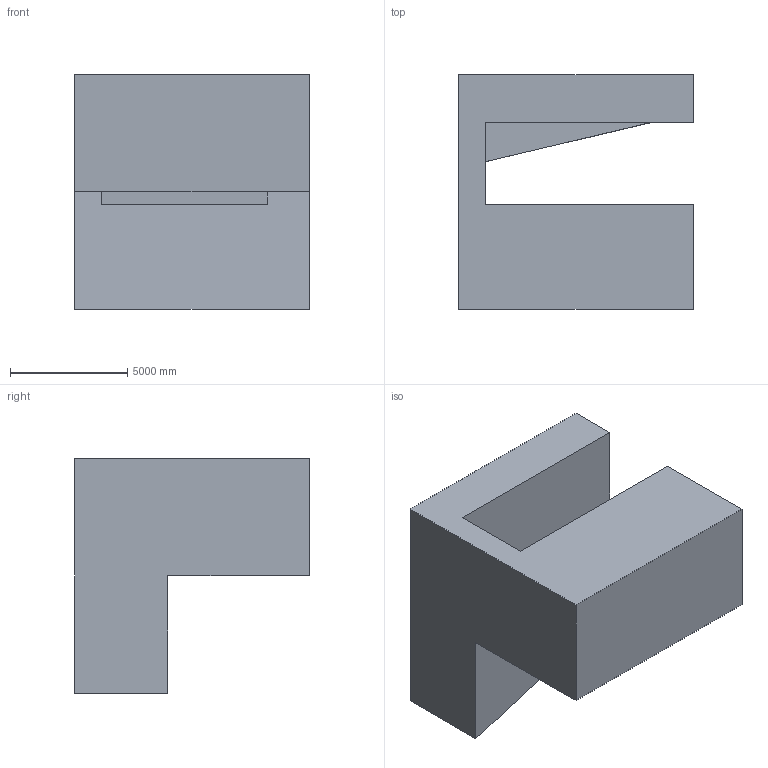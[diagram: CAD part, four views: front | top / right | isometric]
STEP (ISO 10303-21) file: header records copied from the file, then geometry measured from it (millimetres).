
FILE_DESCRIPTION (( 'STEP AP203' ), '1' );
FILE_NAME ('1022.STEP', '2022-08-18T12:27:25', ( 'user' ), ( '' ), 'SwSTEP 2.0', 'SolidWorks 2021', '' );
FILE_SCHEMA (( 'CONFIG_CONTROL_DESIGN' ));
Length unit declared in the file: centimetre
Products named in the file (1): 1022
Bounding box: 10000 x 10000 x 10000 mm (x, y, z)
Volume: 480086894766.8 mm3; surface area: 568024908.1 mm2
Topology: 1 solids, 1 shells, 14 faces, 36 edges, 24 vertices
Faces by surface type: plane 14
Entity records: 497 total; most frequent: CARTESIAN_POINT 75, ORIENTED_EDGE 72, DIRECTION 66, EDGE_CURVE 36, LINE 36, VECTOR 36, VERTEX_POINT 24, AXIS2_PLACEMENT_3D 15
